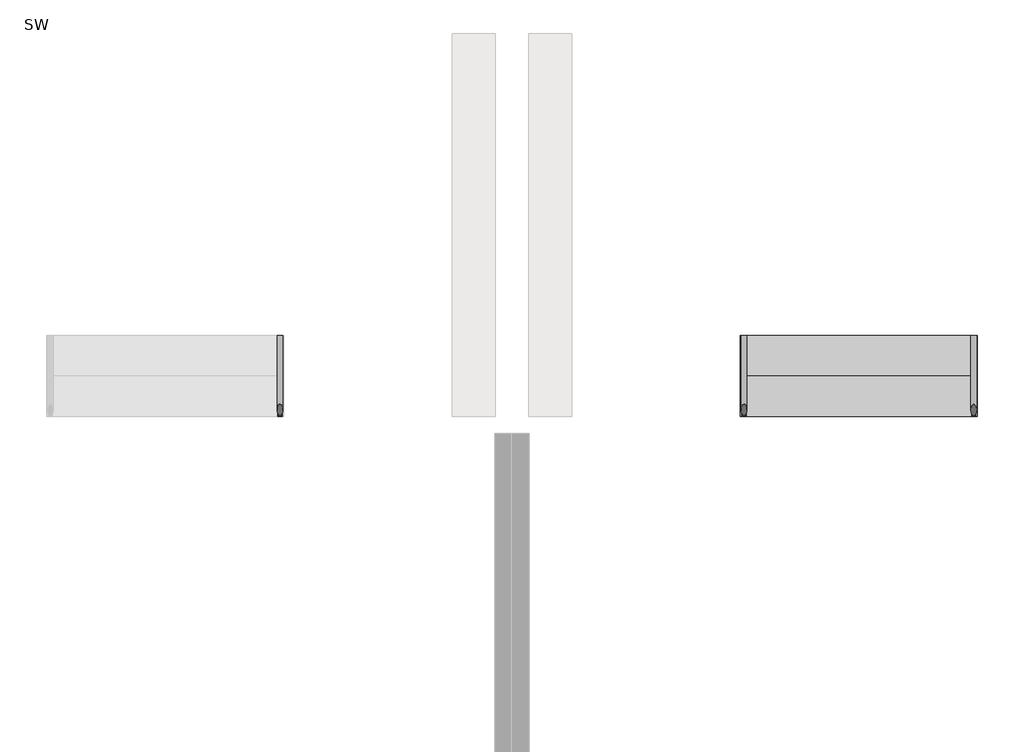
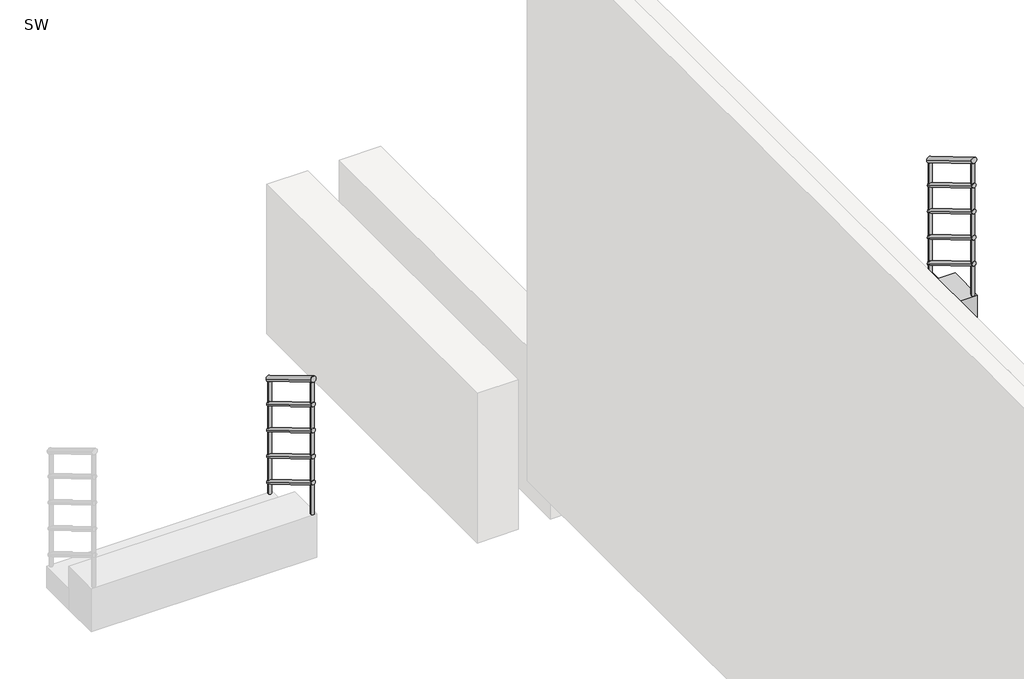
# One storey, part 2 of 2: 3 railings, 1 stair flight.
"""IFC4 building model written with IfcOpenShell, lengths in millimetres."""

import ifcopenshell
import ifcopenshell.guid

model = None  # the IFC model being written
_history = None  # IfcOwnerHistory: only IFC2X3 demands one
_inside = {}  # id of a spatial element -> (the spatial element, [elements in it])
_under = {}  # id of a project, library or spatial element -> (it, [spatial elements below it])
_declared = {}  # id of a project -> (the project, [libraries it declares])
_typed = {}  # id of a type object -> (the type object, [elements of that type])
_made_of = {}  # id of a material, layer set ... -> (it, [elements and type objects made of it])


def new_model(schema):
    """Start an empty IFC model of exactly this schema.

    Asked for "IFC4X3", IfcOpenShell would pick the latest addendum, in which some entities
    have other attributes; the version numbers below select the first issue.
    IFC2X3 requires an IfcOwnerHistory on every rooted entity: one is made here for all.
    """
    global model, _history
    if schema == "IFC4X3":
        model = ifcopenshell.file(schema_version=(4, 3, 0, 0))
    else:
        model = ifcopenshell.file(schema=schema)
    _inside.clear()
    _under.clear()
    _declared.clear()
    _typed.clear()
    _made_of.clear()
    _history = None
    if model.schema == "IFC2X3":
        org = make("IfcOrganization", Name="unknown")
        user = make(
            "IfcPersonAndOrganization",
            ThePerson=make("IfcPerson", FamilyName="unknown"),
            TheOrganization=org,
        )
        app = make(
            "IfcApplication",
            ApplicationDeveloper=org,
            Version="unknown",
            ApplicationFullName="unknown",
            ApplicationIdentifier="unknown",
        )
        _history = make(
            "IfcOwnerHistory",
            OwningUser=user,
            OwningApplication=app,
            ChangeAction="ADDED",
            CreationDate=0,
        )
    return model


def make(cls, **values):
    """One entity of the class cls with the attributes given. An attribute that is None is left unset."""
    return model.create_entity(
        cls, **{name: value for name, value in values.items() if value is not None}
    )


def rooted(cls, **values):
    """An entity with a GlobalId (a new one), such as an element, a storey or a relation."""
    return make(cls, GlobalId=ifcopenshell.guid.new(), OwnerHistory=_history, **values)


def si_unit(unit_type, name, prefix=None):
    """IfcSIUnit, for example si_unit("LENGTHUNIT", "METRE", prefix="MILLI")."""
    return make("IfcSIUnit", UnitType=unit_type, Prefix=prefix, Name=name)


def assignment(units):
    """IfcUnitAssignment: the units of a project."""
    return None if units is None else make("IfcUnitAssignment", Units=units)


def point(xyz):
    """IfcCartesianPoint."""
    return None if xyz is None else make("IfcCartesianPoint", Coordinates=xyz)


def direction(xyz):
    """IfcDirection."""
    return None if xyz is None else make("IfcDirection", DirectionRatios=xyz)


def frame(location, z_axis=None, x_axis=None):
    """IfcAxis2Placement3D, a coordinate frame: its origin and axes. An axis left out is left unset."""
    return make(
        "IfcAxis2Placement3D",
        Location=point(location),
        Axis=direction(z_axis),
        RefDirection=direction(x_axis),
    )


def origin():
    """The frame at (0, 0, 0) with its axes left unset."""
    return frame((0.0, 0.0, 0.0))


def place(relative_to, where):
    """IfcLocalPlacement: puts the frame where relative to a parent placement (None: the world)."""
    return make(
        "IfcLocalPlacement", PlacementRelTo=relative_to, RelativePlacement=where
    )


def context(
    kind, dimensions, precision=None, world=None, true_north=None, identifier=None
):
    """IfcGeometricRepresentationContext, for example the 3D "Model" context."""
    return make(
        "IfcGeometricRepresentationContext",
        ContextIdentifier=identifier,
        ContextType=kind,
        CoordinateSpaceDimension=dimensions,
        Precision=precision,
        WorldCoordinateSystem=world,
        TrueNorth=true_north,
    )


def project(units=None, contexts=None):
    """IfcProject with its units and contexts."""
    return rooted(
        "IfcProject",
        Name="project",
        RepresentationContexts=contexts,
        UnitsInContext=assignment(units),
    )


def spatial(cls, under=None, at=None, **own):
    """A site, building, storey or space (cls), placed at a placement, below another one or the project."""
    s = rooted(cls, ObjectPlacement=at, **own)
    if under is not None:
        _under.setdefault(under.id(), (under, []))[1].append(s)
    return s


def circle_curve(where, radius):
    """IfcCircle in the frame where."""
    return make("IfcCircle", Position=where, Radius=radius)


def ellipse_curve(where, semi_axis1, semi_axis2):
    """IfcEllipse in the frame where."""
    return make(
        "IfcEllipse", Position=where, SemiAxis1=semi_axis1, SemiAxis2=semi_axis2
    )


def faces_of(points, faces, orient=None, outer=None):
    """IfcFace entities. A face is a list of loops; a loop is a list of indices into points, from 0.

    orient and outer hold one flag for each loop. By default every Orientation is true, the
    first loop of a face is its IfcFaceOuterBound and the others are IfcFaceBound.
    """
    made = []
    for i, loops in enumerate(faces):
        bounds = []
        for j, loop in enumerate(loops):
            is_outer = j == 0 if outer is None else outer[i][j]
            bounds.append(
                make(
                    "IfcFaceOuterBound" if is_outer else "IfcFaceBound",
                    Bound=make("IfcPolyLoop", Polygon=[points[k] for k in loop]),
                    Orientation=True if orient is None else orient[i][j],
                )
            )
        made.append(make("IfcFace", Bounds=bounds))
    return made


def faceted_brep(points, faces, orient=None, outer=None, voids=None):
    """IfcFacetedBrep: a solid bounded by flat faces; with voids (closed shells), ...WithVoids."""
    shared = [point(p) for p in points]
    hull = make("IfcClosedShell", CfsFaces=faces_of(shared, faces, orient, outer))
    if voids is None:
        return make("IfcFacetedBrep", Outer=hull)
    return make(
        "IfcFacetedBrepWithVoids",
        Outer=hull,
        Voids=[
            make(cls, CfsFaces=faces_of(shared, fs, o, b)) for cls, fs, o, b in voids
        ],
    )


def shape(context_of_items, identifier, shape_type, items):
    """IfcShapeRepresentation: the items that make up one representation, for example the "Body"."""
    return make(
        "IfcShapeRepresentation",
        ContextOfItems=context_of_items,
        RepresentationIdentifier=identifier,
        RepresentationType=shape_type,
        Items=items,
    )


def made_of(thing, what):
    """Note that an element or type object is made of a material, layer set ...; save() writes the relation."""
    if what is not None:
        _made_of.setdefault(what.id(), (what, []))[1].append(thing)
    return thing


def element(
    cls,
    number,
    at=None,
    inside=None,
    cuts=None,
    type_object=None,
    material=None,
    context=None,
    identifier="Body",
    shape_type=None,
    held_by="IfcProductDefinitionShape",
    body=None,
    shapes=None,
    **own,
):
    """One element of the class cls, such as IfcWall. Its Tag is "e" and its number.

    at: its placement. inside: the storey or other place that contains it. cuts: it is an
    opening in that element (IfcRelVoidsElement). A single representation is given by context,
    identifier, shape_type and body (its items); several are given by shapes. held_by: the class
    of the entity that holds the representations. save() writes the other relations.
    """
    e = rooted(cls, Tag="e%d" % number, ObjectPlacement=at, **own)
    if body is not None:
        shapes = [shape(context, identifier, shape_type, body)]
    if shapes is not None:
        e.Representation = make(held_by, Representations=shapes)
    if inside is not None:
        _inside.setdefault(inside.id(), (inside, []))[1].append(e)
    if cuts is not None:
        rooted(
            "IfcRelVoidsElement", RelatingBuildingElement=cuts, RelatedOpeningElement=e
        )
    if type_object is not None:
        _typed.setdefault(type_object.id(), (type_object, []))[1].append(e)
    return made_of(e, material)


def aggregate(whole, parts):
    """IfcRelAggregates: a whole, such as a stair, and the parts it consists of."""
    return rooted("IfcRelAggregates", RelatingObject=whole, RelatedObjects=parts)


def save(model, path):
    """Write the relations noted so far, then the file.

    IfcRelAggregates (storeys below a building ...), IfcRelContainedInSpatialStructure (elements
    in a storey), IfcRelDefinesByType, IfcRelAssociatesMaterial and IfcRelDeclares: one each for
    every whole, place, type object, material and project.
    """
    for whole, parts in _under.values():
        aggregate(whole, parts)
    for where, things in _inside.values():
        rooted(
            "IfcRelContainedInSpatialStructure",
            RelatedElements=things,
            RelatingStructure=where,
        )
    for kind, things in _typed.values():
        rooted("IfcRelDefinesByType", RelatedObjects=things, RelatingType=kind)
    for what, things in _made_of.values():
        rooted("IfcRelAssociatesMaterial", RelatedObjects=things, RelatingMaterial=what)
    for by, libraries in _declared.values():
        rooted("IfcRelDeclares", RelatingContext=by, RelatedDefinitions=libraries)
    model.write(path)


def plane_surface(at):
    """IfcPlane: the flat surface through the origin of the frame at, square to its z axis."""
    return make("IfcPlane", Position=at)


def cylinder_surface(at, radius):
    """IfcCylindricalSurface: all points at the distance radius from the z axis of the frame at."""
    return make("IfcCylindricalSurface", Position=at, Radius=radius)


def advanced_brep(points, edges, surfaces, faces):
    """IfcAdvancedBrep: a solid bounded by faces that lie on surfaces and meet in shared edges.

    An edge is (start, end): straight between two places in points (the first is 0);
    or (start, end, curve); or (start, end, curve, False) where it runs against its curve.
    A face is (place in surfaces, loops), or (place, loops, False) where it looks against
    its surface's normal. A loop lists edges by number (the first is 1), with a minus sign
    where the edge is run from its end to its start. The first loop is the outer one.
    """
    corners = [point(p) for p in points]
    vertices = [make("IfcVertexPoint", VertexGeometry=c) for c in corners]
    made = []
    for start, end, *more in edges:
        made.append(
            make(
                "IfcEdgeCurve",
                EdgeStart=vertices[start],
                EdgeEnd=vertices[end],
                EdgeGeometry=more[0] if more else make("IfcPolyline", Points=[corners[start], corners[end]]),
                SameSense=more[1] if len(more) > 1 else True,
            )
        )
    hull = []
    for where, loops, *sense in faces:
        bounds = []
        for j, loop in enumerate(loops):
            ring = [make("IfcOrientedEdge", EdgeElement=made[abs(k) - 1], Orientation=k > 0) for k in loop]
            bounds.append(
                make(
                    "IfcFaceOuterBound" if j == 0 else "IfcFaceBound",
                    Bound=make("IfcEdgeLoop", EdgeList=ring),
                    Orientation=True,
                )
            )
        hull.append(make("IfcAdvancedFace", Bounds=bounds, FaceSurface=surfaces[where], SameSense=sense[0] if sense else True))
    return make("IfcAdvancedBrep", Outer=make("IfcClosedShell", CfsFaces=hull))


model = new_model("IFC4")

# Units and contexts
model_context = context("Model", 3, world=origin())
ifc_project = project(units=[si_unit("LENGTHUNIT", "METRE", prefix="MILLI")], contexts=[model_context])

# Site, building, storey
site = spatial("IfcSite", under=ifc_project)
building = spatial("IfcBuilding", under=site)
storey = spatial("IfcBuildingStorey", under=building, Name="SW", Elevation=-450.0)

# Railings
placement = place(None, origin())
element("IfcRailing", 1, ObjectType="900mm 圆管", at=placement, inside=storey, context=model_context, shape_type="AdvancedBrep", body=[
    advanced_brep(
    [(-770.7991115, 14531.4406182, 443.3917154), (-730.7991115, 14531.4406182, 443.3917154), (-770.7991115, 13971.4406182, 776.7250487), (-730.7991115, 13971.4406182, 776.7250487)],
    [
        (0, 1, ellipse_curve(frame((-750.7991115, 14531.4406182, 443.3917154), z_axis=(0.0, 1.0, 0.0), x_axis=(0.0, 0.0, -1.0)), 23.2749513, 20.0)),
        (1, 0, ellipse_curve(frame((-750.7991115, 14531.4406182, 443.3917154), z_axis=(0.0, 1.0, 0.0), x_axis=(0.0, 0.0, -1.0)), 23.2749513, 20.0)),
        (2, 3, ellipse_curve(frame((-750.7991115, 13971.4406182, 776.7250487), z_axis=(0.0, -1.0, 0.0), x_axis=(0.0, 0.0, -1.0)), 23.2749513, 20.0)),
        (3, 2, ellipse_curve(frame((-750.7991115, 13971.4406182, 776.7250487), z_axis=(0.0, -1.0, 0.0), x_axis=(0.0, 0.0, -1.0)), 23.2749513, 20.0)),
        (0, 2),
        (3, 1),
    ],
    [
        plane_surface(frame((-750.7991115, 14531.4406182, 466.6666667), z_axis=(0.0, 1.0, 0.0), x_axis=(0.0, 0.0, -1.0))),
        plane_surface(frame((-750.7991115, 13971.4406182, 800.0), z_axis=(0.0, -1.0, 0.0), x_axis=(0.0, 0.0, -1.0))),
        cylinder_surface(frame((-750.7991115, 14521.210941, 449.480809), z_axis=(0.0, 0.859292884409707, -0.5114838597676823), x_axis=(1.0, 0.0, 0.0)), 20.0),
    ],
    [
        (0, [[1, 2]]),
        (1, [[3, 4]]),
        (2, [[-1, 5, -4, 6]]),
        (2, [[-2, -6, -3, -5]]),
    ],
),
    advanced_brep(
    [(-765.7991115, 14531.4406182, 249.2104532), (-735.7991115, 14531.4406182, 249.2104532), (-765.7991115, 13971.4406182, 582.5437866), (-735.7991115, 13971.4406182, 582.5437866)],
    [
        (0, 1, ellipse_curve(frame((-750.7991115, 14531.4406182, 249.2104532), z_axis=(0.0, 1.0, 0.0), x_axis=(0.0, 0.0, -1.0)), 17.4562134, 15.0)),
        (1, 0, ellipse_curve(frame((-750.7991115, 14531.4406182, 249.2104532), z_axis=(0.0, 1.0, 0.0), x_axis=(0.0, 0.0, -1.0)), 17.4562134, 15.0)),
        (2, 3, ellipse_curve(frame((-750.7991115, 13971.4406182, 582.5437866), z_axis=(0.0, -1.0, 0.0), x_axis=(0.0, 0.0, -1.0)), 17.4562134, 15.0)),
        (3, 2, ellipse_curve(frame((-750.7991115, 13971.4406182, 582.5437866), z_axis=(0.0, -1.0, 0.0), x_axis=(0.0, 0.0, -1.0)), 17.4562134, 15.0)),
        (0, 2),
        (3, 1),
    ],
    [
        plane_surface(frame((-750.7991115, 14531.4406182, 266.6666667), z_axis=(0.0, 1.0, 0.0), x_axis=(0.0, 0.0, -1.0))),
        plane_surface(frame((-750.7991115, 13971.4406182, 600.0), z_axis=(0.0, -1.0, 0.0), x_axis=(0.0, 0.0, -1.0))),
        cylinder_surface(frame((-750.7991115, 14523.7683603, 253.7772734), z_axis=(0.0, 0.859292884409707, -0.5114838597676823), x_axis=(1.0, 0.0, 0.0)), 15.0),
    ],
    [
        (0, [[1, 2]]),
        (1, [[3, 4]]),
        (2, [[-1, 5, -4, 6]]),
        (2, [[-2, -6, -3, -5]]),
    ],
),
    advanced_brep(
    [(-765.7991115, 14531.4406182, 49.2104532), (-735.7991115, 14531.4406182, 49.2104532), (-765.7991115, 13971.4406182, 382.5437866), (-735.7991115, 13971.4406182, 382.5437866)],
    [
        (0, 1, ellipse_curve(frame((-750.7991115, 14531.4406182, 49.2104532), z_axis=(0.0, 1.0, 0.0), x_axis=(0.0, 0.0, -1.0)), 17.4562134, 15.0)),
        (1, 0, ellipse_curve(frame((-750.7991115, 14531.4406182, 49.2104532), z_axis=(0.0, 1.0, 0.0), x_axis=(0.0, 0.0, -1.0)), 17.4562134, 15.0)),
        (2, 3, ellipse_curve(frame((-750.7991115, 13971.4406182, 382.5437866), z_axis=(0.0, -1.0, 0.0), x_axis=(0.0, 0.0, -1.0)), 17.4562134, 15.0)),
        (3, 2, ellipse_curve(frame((-750.7991115, 13971.4406182, 382.5437866), z_axis=(0.0, -1.0, 0.0), x_axis=(0.0, 0.0, -1.0)), 17.4562134, 15.0)),
        (0, 2),
        (3, 1),
    ],
    [
        plane_surface(frame((-750.7991115, 14531.4406182, 66.6666667), z_axis=(0.0, 1.0, 0.0), x_axis=(0.0, 0.0, -1.0))),
        plane_surface(frame((-750.7991115, 13971.4406182, 400.0), z_axis=(0.0, -1.0, 0.0), x_axis=(0.0, 0.0, -1.0))),
        cylinder_surface(frame((-750.7991115, 14523.7683603, 53.7772734), z_axis=(0.0, 0.859292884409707, -0.5114838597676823), x_axis=(1.0, 0.0, 0.0)), 15.0),
    ],
    [
        (0, [[1, 2]]),
        (1, [[3, 4]]),
        (2, [[-1, 5, -4, 6]]),
        (2, [[-2, -6, -3, -5]]),
    ],
),
    advanced_brep(
    [(-765.7991115, 14531.4406182, -150.7895468), (-735.7991115, 14531.4406182, -150.7895468), (-765.7991115, 13971.4406182, 182.5437866), (-735.7991115, 13971.4406182, 182.5437866)],
    [
        (0, 1, ellipse_curve(frame((-750.7991115, 14531.4406182, -150.7895468), z_axis=(0.0, 1.0, 0.0), x_axis=(0.0, 0.0, -1.0)), 17.4562134, 15.0)),
        (1, 0, ellipse_curve(frame((-750.7991115, 14531.4406182, -150.7895468), z_axis=(0.0, 1.0, 0.0), x_axis=(0.0, 0.0, -1.0)), 17.4562134, 15.0)),
        (2, 3, ellipse_curve(frame((-750.7991115, 13971.4406182, 182.5437866), z_axis=(0.0, -1.0, 0.0), x_axis=(0.0, 0.0, -1.0)), 17.4562134, 15.0)),
        (3, 2, ellipse_curve(frame((-750.7991115, 13971.4406182, 182.5437866), z_axis=(0.0, -1.0, 0.0), x_axis=(0.0, 0.0, -1.0)), 17.4562134, 15.0)),
        (0, 2),
        (3, 1),
    ],
    [
        plane_surface(frame((-750.7991115, 14531.4406182, -133.3333333), z_axis=(0.0, 1.0, 0.0), x_axis=(0.0, 0.0, -1.0))),
        plane_surface(frame((-750.7991115, 13971.4406182, 200.0), z_axis=(0.0, -1.0, 0.0), x_axis=(0.0, 0.0, -1.0))),
        cylinder_surface(frame((-750.7991115, 14523.7683603, -146.2227266), z_axis=(0.0, 0.859292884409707, -0.5114838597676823), x_axis=(1.0, 0.0, 0.0)), 15.0),
    ],
    [
        (0, [[1, 2]]),
        (1, [[3, 4]]),
        (2, [[-1, 5, -4, 6]]),
        (2, [[-2, -6, -3, -5]]),
    ],
),
    advanced_brep(
    [(-765.7991115, 14531.4406182, -350.7895468), (-735.7991115, 14531.4406182, -350.7895468), (-765.7991115, 13971.4406182, -17.4562134), (-735.7991115, 13971.4406182, -17.4562134)],
    [
        (0, 1, ellipse_curve(frame((-750.7991115, 14531.4406182, -350.7895468), z_axis=(0.0, 1.0, 0.0), x_axis=(0.0, 0.0, -1.0)), 17.4562134, 15.0)),
        (1, 0, ellipse_curve(frame((-750.7991115, 14531.4406182, -350.7895468), z_axis=(0.0, 1.0, 0.0), x_axis=(0.0, 0.0, -1.0)), 17.4562134, 15.0)),
        (2, 3, ellipse_curve(frame((-750.7991115, 13971.4406182, -17.4562134), z_axis=(0.0, -1.0, 0.0), x_axis=(0.0, 0.0, -1.0)), 17.4562134, 15.0)),
        (3, 2, ellipse_curve(frame((-750.7991115, 13971.4406182, -17.4562134), z_axis=(0.0, -1.0, 0.0), x_axis=(0.0, 0.0, -1.0)), 17.4562134, 15.0)),
        (0, 2),
        (3, 1),
    ],
    [
        plane_surface(frame((-750.7991115, 14531.4406182, -333.3333333), z_axis=(0.0, 1.0, 0.0), x_axis=(0.0, 0.0, -1.0))),
        plane_surface(frame((-750.7991115, 13971.4406182, 0.0), z_axis=(0.0, -1.0, 0.0), x_axis=(0.0, 0.0, -1.0))),
        cylinder_surface(frame((-750.7991115, 14523.7683603, -346.2227266), z_axis=(0.0, 0.859292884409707, -0.5114838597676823), x_axis=(1.0, 0.0, 0.0)), 15.0),
    ],
    [
        (0, [[1, 2]]),
        (1, [[3, 4]]),
        (2, [[-1, 5, -4, 6]]),
        (2, [[-2, -6, -3, -5]]),
    ],
),
    advanced_brep(
    [(-738.2991115, 13983.9406182, 746.0096213), (-763.2991115, 13983.9406182, 746.0096213), (-763.2991115, 13983.9406182, -266.6666667), (-738.2991115, 13983.9406182, -266.6666667)],
    [
        (0, 1, ellipse_curve(frame((-750.7991115, 13983.9406182, 746.0096213), z_axis=(0.0, -0.5114838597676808, -0.8592928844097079), x_axis=(0.0, -0.8592928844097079, 0.5114838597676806)), 14.5468445, 12.5)),
        (1, 2),
        (2, 3, circle_curve(frame((-750.7991115, 13983.9406182, -266.6666667), z_axis=(0.0, 0.0, 1.0), x_axis=(-1.0, 0.0, 0.0)), 12.5)),
        (3, 0),
        (3, 2, circle_curve(frame((-750.7991115, 13983.9406182, -266.6666667), z_axis=(0.0, 0.0, 1.0), x_axis=(-1.0, 0.0, 0.0)), 12.5)),
        (1, 0, ellipse_curve(frame((-750.7991115, 13983.9406182, 746.0096213), z_axis=(0.0, -0.5114838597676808, -0.8592928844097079), x_axis=(0.0, -0.8592928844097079, 0.5114838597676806)), 14.5468445, 12.5)),
    ],
    [
        cylinder_surface(frame((-750.7991115, 13983.9406182, -366.6666667), z_axis=(0.0, 0.0, 1.0), x_axis=(-1.0, 0.0, 0.0)), 12.5),
        plane_surface(frame((-775.7991115, 13958.9406182, 760.8905737), z_axis=(0.0, 0.5114838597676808, 0.8592928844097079), x_axis=(1.0, 0.0, 0.0))),
        plane_surface(frame((-775.7991115, 14008.9406182, -266.6666667), z_axis=(0.0, 0.0, -1.0), x_axis=(1.0, 0.0, 0.0))),
    ],
    [
        (0, [[1, 2, 3, 4]]),
        (0, [[5, -2, 6, -4]]),
        (1, [[-6, -1]]),
        (2, [[-5, -3]]),
    ],
),
    advanced_brep(
    [(-738.2991115, 14518.9406182, 427.5572403), (-763.2991115, 14518.9406182, 427.5572403), (-763.2991115, 14518.9406182, -433.3333333), (-738.2991115, 14518.9406182, -433.3333333)],
    [
        (0, 1, ellipse_curve(frame((-750.7991115, 14518.9406182, 427.5572403), z_axis=(0.0, -0.5114838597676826, -0.8592928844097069), x_axis=(0.0, -0.8592928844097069, 0.5114838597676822)), 14.5468445, 12.5)),
        (1, 2),
        (2, 3, circle_curve(frame((-750.7991115, 14518.9406182, -433.3333333), z_axis=(0.0, 0.0, 1.0), x_axis=(-1.0, 0.0, 0.0)), 12.5)),
        (3, 0),
        (3, 2, circle_curve(frame((-750.7991115, 14518.9406182, -433.3333333), z_axis=(0.0, 0.0, 1.0), x_axis=(-1.0, 0.0, 0.0)), 12.5)),
        (1, 0, ellipse_curve(frame((-750.7991115, 14518.9406182, 427.5572403), z_axis=(0.0, -0.5114838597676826, -0.8592928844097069), x_axis=(0.0, -0.8592928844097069, 0.5114838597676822)), 14.5468445, 12.5)),
    ],
    [
        cylinder_surface(frame((-750.7991115, 14518.9406182, -533.3333333), z_axis=(0.0, 0.0, 1.0), x_axis=(-1.0, 0.0, 0.0)), 12.5),
        plane_surface(frame((-775.7991115, 14493.9406182, 442.4381927), z_axis=(0.0, 0.5114838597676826, 0.8592928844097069), x_axis=(1.0, 0.0, 0.0))),
        plane_surface(frame((-775.7991115, 14543.9406182, -433.3333333), z_axis=(0.0, 0.0, -1.0), x_axis=(1.0, 0.0, 0.0))),
    ],
    [
        (0, [[1, 2, 3, 4]]),
        (0, [[5, -2, 6, -4]]),
        (1, [[-6, -1]]),
        (2, [[-5, -3]]),
    ],
),
])
element("IfcRailing", 2, ObjectType="900mm 圆管", at=placement, inside=storey, context=model_context, shape_type="AdvancedBrep", body=[
    advanced_brep(
    [(4029.2008885, 14531.4406182, 443.3917154), (4069.2008885, 14531.4406182, 443.3917154), (4029.2008885, 13971.4406182, 776.7250487), (4069.2008885, 13971.4406182, 776.7250487)],
    [
        (0, 1, ellipse_curve(frame((4049.2008885, 14531.4406182, 443.3917154), z_axis=(0.0, 1.0, 0.0), x_axis=(0.0, 0.0, -1.0)), 23.2749513, 20.0)),
        (1, 0, ellipse_curve(frame((4049.2008885, 14531.4406182, 443.3917154), z_axis=(0.0, 1.0, 0.0), x_axis=(0.0, 0.0, -1.0)), 23.2749513, 20.0)),
        (2, 3, ellipse_curve(frame((4049.2008885, 13971.4406182, 776.7250487), z_axis=(0.0, -1.0, 0.0), x_axis=(0.0, 0.0, -1.0)), 23.2749513, 20.0)),
        (3, 2, ellipse_curve(frame((4049.2008885, 13971.4406182, 776.7250487), z_axis=(0.0, -1.0, 0.0), x_axis=(0.0, 0.0, -1.0)), 23.2749513, 20.0)),
        (0, 2),
        (3, 1),
    ],
    [
        plane_surface(frame((4049.2008885, 14531.4406182, 466.6666667), z_axis=(0.0, 1.0, 0.0), x_axis=(0.0, 0.0, -1.0))),
        plane_surface(frame((4049.2008885, 13971.4406182, 800.0), z_axis=(0.0, -1.0, 0.0), x_axis=(0.0, 0.0, -1.0))),
        cylinder_surface(frame((4049.2008885, 14521.210941, 449.480809), z_axis=(0.0, 0.859292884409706, -0.5114838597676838), x_axis=(1.0, 0.0, 0.0)), 20.0),
    ],
    [
        (0, [[1, 2]]),
        (1, [[3, 4]]),
        (2, [[-1, 5, -4, 6]]),
        (2, [[-2, -6, -3, -5]]),
    ],
),
    advanced_brep(
    [(4034.2008885, 14531.4406182, 249.2104532), (4064.2008885, 14531.4406182, 249.2104532), (4034.2008885, 13971.4406182, 582.5437866), (4064.2008885, 13971.4406182, 582.5437866)],
    [
        (0, 1, ellipse_curve(frame((4049.2008885, 14531.4406182, 249.2104532), z_axis=(0.0, 1.0, 0.0), x_axis=(0.0, 0.0, -1.0)), 17.4562134, 15.0)),
        (1, 0, ellipse_curve(frame((4049.2008885, 14531.4406182, 249.2104532), z_axis=(0.0, 1.0, 0.0), x_axis=(0.0, 0.0, -1.0)), 17.4562134, 15.0)),
        (2, 3, ellipse_curve(frame((4049.2008885, 13971.4406182, 582.5437866), z_axis=(0.0, -1.0, 0.0), x_axis=(0.0, 0.0, -1.0)), 17.4562134, 15.0)),
        (3, 2, ellipse_curve(frame((4049.2008885, 13971.4406182, 582.5437866), z_axis=(0.0, -1.0, 0.0), x_axis=(0.0, 0.0, -1.0)), 17.4562134, 15.0)),
        (1, 3),
        (2, 0),
    ],
    [
        plane_surface(frame((4049.2008885, 14531.4406182, 266.6666667), z_axis=(0.0, 1.0, 0.0), x_axis=(0.0, 0.0, -1.0))),
        plane_surface(frame((4049.2008885, 13971.4406182, 600.0), z_axis=(0.0, -1.0, 0.0), x_axis=(0.0, 0.0, -1.0))),
        cylinder_surface(frame((4049.2008885, 14523.7683603, 253.7772734), z_axis=(0.0, 0.859292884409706, -0.5114838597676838), x_axis=(1.0, 0.0, 0.0)), 15.0),
    ],
    [
        (0, [[1, 2]]),
        (1, [[3, 4]]),
        (2, [[-2, 5, -3, 6]]),
        (2, [[-1, -6, -4, -5]]),
    ],
),
    advanced_brep(
    [(4034.2008885, 14531.4406182, 49.2104532), (4064.2008885, 14531.4406182, 49.2104532), (4034.2008885, 13971.4406182, 382.5437866), (4064.2008885, 13971.4406182, 382.5437866)],
    [
        (0, 1, ellipse_curve(frame((4049.2008885, 14531.4406182, 49.2104532), z_axis=(0.0, 1.0, 0.0), x_axis=(0.0, 0.0, -1.0)), 17.4562134, 15.0)),
        (1, 0, ellipse_curve(frame((4049.2008885, 14531.4406182, 49.2104532), z_axis=(0.0, 1.0, 0.0), x_axis=(0.0, 0.0, -1.0)), 17.4562134, 15.0)),
        (2, 3, ellipse_curve(frame((4049.2008885, 13971.4406182, 382.5437866), z_axis=(0.0, -1.0, 0.0), x_axis=(0.0, 0.0, -1.0)), 17.4562134, 15.0)),
        (3, 2, ellipse_curve(frame((4049.2008885, 13971.4406182, 382.5437866), z_axis=(0.0, -1.0, 0.0), x_axis=(0.0, 0.0, -1.0)), 17.4562134, 15.0)),
        (1, 3),
        (2, 0),
    ],
    [
        plane_surface(frame((4049.2008885, 14531.4406182, 66.6666667), z_axis=(0.0, 1.0, 0.0), x_axis=(0.0, 0.0, -1.0))),
        plane_surface(frame((4049.2008885, 13971.4406182, 400.0), z_axis=(0.0, -1.0, 0.0), x_axis=(0.0, 0.0, -1.0))),
        cylinder_surface(frame((4049.2008885, 14523.7683603, 53.7772734), z_axis=(0.0, 0.859292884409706, -0.5114838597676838), x_axis=(1.0, 0.0, 0.0)), 15.0),
    ],
    [
        (0, [[1, 2]]),
        (1, [[3, 4]]),
        (2, [[-2, 5, -3, 6]]),
        (2, [[-1, -6, -4, -5]]),
    ],
),
    advanced_brep(
    [(4034.2008885, 14531.4406182, -150.7895468), (4064.2008885, 14531.4406182, -150.7895468), (4034.2008885, 13971.4406182, 182.5437866), (4064.2008885, 13971.4406182, 182.5437866)],
    [
        (0, 1, ellipse_curve(frame((4049.2008885, 14531.4406182, -150.7895468), z_axis=(0.0, 1.0, 0.0), x_axis=(0.0, 0.0, -1.0)), 17.4562134, 15.0)),
        (1, 0, ellipse_curve(frame((4049.2008885, 14531.4406182, -150.7895468), z_axis=(0.0, 1.0, 0.0), x_axis=(0.0, 0.0, -1.0)), 17.4562134, 15.0)),
        (2, 3, ellipse_curve(frame((4049.2008885, 13971.4406182, 182.5437866), z_axis=(0.0, -1.0, 0.0), x_axis=(0.0, 0.0, -1.0)), 17.4562134, 15.0)),
        (3, 2, ellipse_curve(frame((4049.2008885, 13971.4406182, 182.5437866), z_axis=(0.0, -1.0, 0.0), x_axis=(0.0, 0.0, -1.0)), 17.4562134, 15.0)),
        (1, 3),
        (2, 0),
    ],
    [
        plane_surface(frame((4049.2008885, 14531.4406182, -133.3333333), z_axis=(0.0, 1.0, 0.0), x_axis=(0.0, 0.0, -1.0))),
        plane_surface(frame((4049.2008885, 13971.4406182, 200.0), z_axis=(0.0, -1.0, 0.0), x_axis=(0.0, 0.0, -1.0))),
        cylinder_surface(frame((4049.2008885, 14523.7683603, -146.2227266), z_axis=(0.0, 0.859292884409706, -0.5114838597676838), x_axis=(1.0, 0.0, 0.0)), 15.0),
    ],
    [
        (0, [[1, 2]]),
        (1, [[3, 4]]),
        (2, [[-2, 5, -3, 6]]),
        (2, [[-1, -6, -4, -5]]),
    ],
),
    advanced_brep(
    [(4034.2008885, 14531.4406182, -350.7895468), (4064.2008885, 14531.4406182, -350.7895468), (4034.2008885, 13971.4406182, -17.4562134), (4064.2008885, 13971.4406182, -17.4562134)],
    [
        (0, 1, ellipse_curve(frame((4049.2008885, 14531.4406182, -350.7895468), z_axis=(0.0, 1.0, 0.0), x_axis=(0.0, 0.0, -1.0)), 17.4562134, 15.0)),
        (1, 0, ellipse_curve(frame((4049.2008885, 14531.4406182, -350.7895468), z_axis=(0.0, 1.0, 0.0), x_axis=(0.0, 0.0, -1.0)), 17.4562134, 15.0)),
        (2, 3, ellipse_curve(frame((4049.2008885, 13971.4406182, -17.4562134), z_axis=(0.0, -1.0, 0.0), x_axis=(0.0, 0.0, -1.0)), 17.4562134, 15.0)),
        (3, 2, ellipse_curve(frame((4049.2008885, 13971.4406182, -17.4562134), z_axis=(0.0, -1.0, 0.0), x_axis=(0.0, 0.0, -1.0)), 17.4562134, 15.0)),
        (1, 3),
        (2, 0),
    ],
    [
        plane_surface(frame((4049.2008885, 14531.4406182, -333.3333333), z_axis=(0.0, 1.0, 0.0), x_axis=(0.0, 0.0, -1.0))),
        plane_surface(frame((4049.2008885, 13971.4406182, 0.0), z_axis=(0.0, -1.0, 0.0), x_axis=(0.0, 0.0, -1.0))),
        cylinder_surface(frame((4049.2008885, 14523.7683603, -346.2227266), z_axis=(0.0, 0.859292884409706, -0.5114838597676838), x_axis=(1.0, 0.0, 0.0)), 15.0),
    ],
    [
        (0, [[1, 2]]),
        (1, [[3, 4]]),
        (2, [[-2, 5, -3, 6]]),
        (2, [[-1, -6, -4, -5]]),
    ],
),
    advanced_brep(
    [(4061.7008885, 13983.9406182, 746.0096213), (4036.7008885, 13983.9406182, 746.0096213), (4036.7008885, 13983.9406182, -266.6666667), (4061.7008885, 13983.9406182, -266.6666667)],
    [
        (0, 1, ellipse_curve(frame((4049.2008885, 13983.9406182, 746.0096213), z_axis=(0.0, -0.5114838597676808, -0.8592928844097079), x_axis=(0.0, -0.8592928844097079, 0.5114838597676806)), 14.5468445, 12.5)),
        (1, 2),
        (2, 3, circle_curve(frame((4049.2008885, 13983.9406182, -266.6666667), z_axis=(0.0, 0.0, 1.0), x_axis=(-1.0, 0.0, 0.0)), 12.5)),
        (3, 0),
        (3, 2, circle_curve(frame((4049.2008885, 13983.9406182, -266.6666667), z_axis=(0.0, 0.0, 1.0), x_axis=(-1.0, 0.0, 0.0)), 12.5)),
        (1, 0, ellipse_curve(frame((4049.2008885, 13983.9406182, 746.0096213), z_axis=(0.0, -0.5114838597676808, -0.8592928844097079), x_axis=(0.0, -0.8592928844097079, 0.5114838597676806)), 14.5468445, 12.5)),
    ],
    [
        cylinder_surface(frame((4049.2008885, 13983.9406182, -366.6666667), z_axis=(0.0, 0.0, 1.0), x_axis=(-1.0, 0.0, 0.0)), 12.5),
        plane_surface(frame((4024.2008885, 13958.9406182, 760.8905737), z_axis=(0.0, 0.5114838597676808, 0.8592928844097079), x_axis=(1.0, 0.0, 0.0))),
        plane_surface(frame((4024.2008885, 14008.9406182, -266.6666667), z_axis=(0.0, 0.0, -1.0), x_axis=(1.0, 0.0, 0.0))),
    ],
    [
        (0, [[1, 2, 3, 4]]),
        (0, [[5, -2, 6, -4]]),
        (1, [[-6, -1]]),
        (2, [[-5, -3]]),
    ],
),
    advanced_brep(
    [(4061.7008885, 14518.9406182, 427.5572403), (4036.7008885, 14518.9406182, 427.5572403), (4036.7008885, 14518.9406182, -433.3333333), (4061.7008885, 14518.9406182, -433.3333333)],
    [
        (0, 1, ellipse_curve(frame((4049.2008885, 14518.9406182, 427.5572403), z_axis=(0.0, -0.5114838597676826, -0.8592928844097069), x_axis=(0.0, -0.8592928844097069, 0.5114838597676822)), 14.5468445, 12.5)),
        (1, 2),
        (2, 3, circle_curve(frame((4049.2008885, 14518.9406182, -433.3333333), z_axis=(0.0, 0.0, 1.0), x_axis=(-1.0, 0.0, 0.0)), 12.5)),
        (3, 0),
        (3, 2, circle_curve(frame((4049.2008885, 14518.9406182, -433.3333333), z_axis=(0.0, 0.0, 1.0), x_axis=(-1.0, 0.0, 0.0)), 12.5)),
        (1, 0, ellipse_curve(frame((4049.2008885, 14518.9406182, 427.5572403), z_axis=(0.0, -0.5114838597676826, -0.8592928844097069), x_axis=(0.0, -0.8592928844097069, 0.5114838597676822)), 14.5468445, 12.5)),
    ],
    [
        cylinder_surface(frame((4049.2008885, 14518.9406182, -533.3333333), z_axis=(0.0, 0.0, 1.0), x_axis=(-1.0, 0.0, 0.0)), 12.5),
        plane_surface(frame((4024.2008885, 14493.9406182, 442.4381927), z_axis=(0.0, 0.5114838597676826, 0.8592928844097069), x_axis=(1.0, 0.0, 0.0))),
        plane_surface(frame((4024.2008885, 14543.9406182, -433.3333333), z_axis=(0.0, 0.0, -1.0), x_axis=(1.0, 0.0, 0.0))),
    ],
    [
        (0, [[1, 2, 3, 4]]),
        (0, [[5, -2, 6, -4]]),
        (1, [[-6, -1]]),
        (2, [[-5, -3]]),
    ],
),
])
element("IfcRailing", 3, ObjectType="900mm 圆管", at=placement, inside=storey, context=model_context, shape_type="AdvancedBrep", body=[
    advanced_brep(
    [(2440.0008885, 14531.4406182, 443.3917154), (2480.0008885, 14531.4406182, 443.3917154), (2440.0008885, 13971.4406182, 776.7250487), (2480.0008885, 13971.4406182, 776.7250487)],
    [
        (0, 1, ellipse_curve(frame((2460.0008885, 14531.4406182, 443.3917154), z_axis=(0.0, 1.0, 0.0), x_axis=(0.0, 0.0, -1.0)), 23.2749513, 20.0)),
        (1, 0, ellipse_curve(frame((2460.0008885, 14531.4406182, 443.3917154), z_axis=(0.0, 1.0, 0.0), x_axis=(0.0, 0.0, -1.0)), 23.2749513, 20.0)),
        (2, 3, ellipse_curve(frame((2460.0008885, 13971.4406182, 776.7250487), z_axis=(0.0, -1.0, 0.0), x_axis=(0.0, 0.0, -1.0)), 23.2749513, 20.0)),
        (3, 2, ellipse_curve(frame((2460.0008885, 13971.4406182, 776.7250487), z_axis=(0.0, -1.0, 0.0), x_axis=(0.0, 0.0, -1.0)), 23.2749513, 20.0)),
        (0, 2),
        (3, 1),
    ],
    [
        plane_surface(frame((2460.0008885, 14531.4406182, 466.6666667), z_axis=(0.0, 1.0, 0.0), x_axis=(0.0, 0.0, -1.0))),
        plane_surface(frame((2460.0008885, 13971.4406182, 800.0), z_axis=(0.0, -1.0, 0.0), x_axis=(0.0, 0.0, -1.0))),
        cylinder_surface(frame((2460.0008885, 14521.210941, 449.480809), z_axis=(0.0, 0.8592928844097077, -0.5114838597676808), x_axis=(1.0, 0.0, 0.0)), 20.0),
    ],
    [
        (0, [[1, 2]]),
        (1, [[3, 4]]),
        (2, [[-1, 5, -4, 6]]),
        (2, [[-2, -6, -3, -5]]),
    ],
),
    advanced_brep(
    [(2475.0008885, 14531.4406182, 249.2104532), (2445.0008885, 14531.4406182, 249.2104532), (2475.0008885, 13971.4406182, 582.5437866), (2445.0008885, 13971.4406182, 582.5437866)],
    [
        (0, 1, ellipse_curve(frame((2460.0008885, 14531.4406182, 249.2104532), z_axis=(0.0, 1.0, 0.0), x_axis=(0.0, 0.0, -1.0)), 17.4562134, 15.0)),
        (1, 0, ellipse_curve(frame((2460.0008885, 14531.4406182, 249.2104532), z_axis=(0.0, 1.0, 0.0), x_axis=(0.0, 0.0, -1.0)), 17.4562134, 15.0)),
        (2, 3, ellipse_curve(frame((2460.0008885, 13971.4406182, 582.5437866), z_axis=(0.0, -1.0, 0.0), x_axis=(0.0, 0.0, -1.0)), 17.4562134, 15.0)),
        (3, 2, ellipse_curve(frame((2460.0008885, 13971.4406182, 582.5437866), z_axis=(0.0, -1.0, 0.0), x_axis=(0.0, 0.0, -1.0)), 17.4562134, 15.0)),
        (1, 3),
        (2, 0),
    ],
    [
        plane_surface(frame((2460.0008885, 14531.4406182, 266.6666667), z_axis=(0.0, 1.0, 0.0), x_axis=(0.0, 0.0, -1.0))),
        plane_surface(frame((2460.0008885, 13971.4406182, 600.0), z_axis=(0.0, -1.0, 0.0), x_axis=(0.0, 0.0, -1.0))),
        cylinder_surface(frame((2460.0008885, 14523.7683603, 253.7772734), z_axis=(0.0, 0.8592928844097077, -0.5114838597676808), x_axis=(-1.0, 0.0, 0.0)), 15.0),
    ],
    [
        (0, [[1, 2]]),
        (1, [[3, 4]]),
        (2, [[-2, 5, -3, 6]]),
        (2, [[-1, -6, -4, -5]]),
    ],
),
    advanced_brep(
    [(2475.0008885, 14531.4406182, 49.2104532), (2445.0008885, 14531.4406182, 49.2104532), (2475.0008885, 13971.4406182, 382.5437866), (2445.0008885, 13971.4406182, 382.5437866)],
    [
        (0, 1, ellipse_curve(frame((2460.0008885, 14531.4406182, 49.2104532), z_axis=(0.0, 1.0, 0.0), x_axis=(0.0, 0.0, -1.0)), 17.4562134, 15.0)),
        (1, 0, ellipse_curve(frame((2460.0008885, 14531.4406182, 49.2104532), z_axis=(0.0, 1.0, 0.0), x_axis=(0.0, 0.0, -1.0)), 17.4562134, 15.0)),
        (2, 3, ellipse_curve(frame((2460.0008885, 13971.4406182, 382.5437866), z_axis=(0.0, -1.0, 0.0), x_axis=(0.0, 0.0, -1.0)), 17.4562134, 15.0)),
        (3, 2, ellipse_curve(frame((2460.0008885, 13971.4406182, 382.5437866), z_axis=(0.0, -1.0, 0.0), x_axis=(0.0, 0.0, -1.0)), 17.4562134, 15.0)),
        (1, 3),
        (2, 0),
    ],
    [
        plane_surface(frame((2460.0008885, 14531.4406182, 66.6666667), z_axis=(0.0, 1.0, 0.0), x_axis=(0.0, 0.0, -1.0))),
        plane_surface(frame((2460.0008885, 13971.4406182, 400.0), z_axis=(0.0, -1.0, 0.0), x_axis=(0.0, 0.0, -1.0))),
        cylinder_surface(frame((2460.0008885, 14523.7683603, 53.7772734), z_axis=(0.0, 0.8592928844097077, -0.5114838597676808), x_axis=(-1.0, 0.0, 0.0)), 15.0),
    ],
    [
        (0, [[1, 2]]),
        (1, [[3, 4]]),
        (2, [[-2, 5, -3, 6]]),
        (2, [[-1, -6, -4, -5]]),
    ],
),
    advanced_brep(
    [(2475.0008885, 14531.4406182, -150.7895468), (2445.0008885, 14531.4406182, -150.7895468), (2475.0008885, 13971.4406182, 182.5437866), (2445.0008885, 13971.4406182, 182.5437866)],
    [
        (0, 1, ellipse_curve(frame((2460.0008885, 14531.4406182, -150.7895468), z_axis=(0.0, 1.0, 0.0), x_axis=(0.0, 0.0, -1.0)), 17.4562134, 15.0)),
        (1, 0, ellipse_curve(frame((2460.0008885, 14531.4406182, -150.7895468), z_axis=(0.0, 1.0, 0.0), x_axis=(0.0, 0.0, -1.0)), 17.4562134, 15.0)),
        (2, 3, ellipse_curve(frame((2460.0008885, 13971.4406182, 182.5437866), z_axis=(0.0, -1.0, 0.0), x_axis=(0.0, 0.0, -1.0)), 17.4562134, 15.0)),
        (3, 2, ellipse_curve(frame((2460.0008885, 13971.4406182, 182.5437866), z_axis=(0.0, -1.0, 0.0), x_axis=(0.0, 0.0, -1.0)), 17.4562134, 15.0)),
        (1, 3),
        (2, 0),
    ],
    [
        plane_surface(frame((2460.0008885, 14531.4406182, -133.3333333), z_axis=(0.0, 1.0, 0.0), x_axis=(0.0, 0.0, -1.0))),
        plane_surface(frame((2460.0008885, 13971.4406182, 200.0), z_axis=(0.0, -1.0, 0.0), x_axis=(0.0, 0.0, -1.0))),
        cylinder_surface(frame((2460.0008885, 14523.7683603, -146.2227266), z_axis=(0.0, 0.8592928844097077, -0.5114838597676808), x_axis=(-1.0, 0.0, 0.0)), 15.0),
    ],
    [
        (0, [[1, 2]]),
        (1, [[3, 4]]),
        (2, [[-2, 5, -3, 6]]),
        (2, [[-1, -6, -4, -5]]),
    ],
),
    advanced_brep(
    [(2475.0008885, 14531.4406182, -350.7895468), (2445.0008885, 14531.4406182, -350.7895468), (2475.0008885, 13971.4406182, -17.4562134), (2445.0008885, 13971.4406182, -17.4562134)],
    [
        (0, 1, ellipse_curve(frame((2460.0008885, 14531.4406182, -350.7895468), z_axis=(0.0, 1.0, 0.0), x_axis=(0.0, 0.0, -1.0)), 17.4562134, 15.0)),
        (1, 0, ellipse_curve(frame((2460.0008885, 14531.4406182, -350.7895468), z_axis=(0.0, 1.0, 0.0), x_axis=(0.0, 0.0, -1.0)), 17.4562134, 15.0)),
        (2, 3, ellipse_curve(frame((2460.0008885, 13971.4406182, -17.4562134), z_axis=(0.0, -1.0, 0.0), x_axis=(0.0, 0.0, -1.0)), 17.4562134, 15.0)),
        (3, 2, ellipse_curve(frame((2460.0008885, 13971.4406182, -17.4562134), z_axis=(0.0, -1.0, 0.0), x_axis=(0.0, 0.0, -1.0)), 17.4562134, 15.0)),
        (1, 3),
        (2, 0),
    ],
    [
        plane_surface(frame((2460.0008885, 14531.4406182, -333.3333333), z_axis=(0.0, 1.0, 0.0), x_axis=(0.0, 0.0, -1.0))),
        plane_surface(frame((2460.0008885, 13971.4406182, 0.0), z_axis=(0.0, -1.0, 0.0), x_axis=(0.0, 0.0, -1.0))),
        cylinder_surface(frame((2460.0008885, 14523.7683603, -346.2227266), z_axis=(0.0, 0.8592928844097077, -0.5114838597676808), x_axis=(-1.0, 0.0, 0.0)), 15.0),
    ],
    [
        (0, [[1, 2]]),
        (1, [[3, 4]]),
        (2, [[-2, 5, -3, 6]]),
        (2, [[-1, -6, -4, -5]]),
    ],
),
    advanced_brep(
    [(2447.5008885, 13983.9406182, 746.0096213), (2447.5008885, 13983.9406182, -266.6666667), (2472.5008885, 13983.9406182, -266.6666667), (2472.5008885, 13983.9406182, 746.0096213)],
    [
        (0, 1),
        (1, 2, circle_curve(frame((2460.0008885, 13983.9406182, -266.6666667), z_axis=(0.0, 0.0, 1.0), x_axis=(1.0, 0.0, 0.0)), 12.5)),
        (2, 3),
        (3, 0, ellipse_curve(frame((2460.0008885, 13983.9406182, 746.0096213), z_axis=(0.0, -0.5114838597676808, -0.8592928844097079), x_axis=(0.0, -0.8592928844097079, 0.5114838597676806)), 14.5468445, 12.5)),
        (0, 3, ellipse_curve(frame((2460.0008885, 13983.9406182, 746.0096213), z_axis=(0.0, -0.5114838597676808, -0.8592928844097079), x_axis=(0.0, -0.8592928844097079, 0.5114838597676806)), 14.5468445, 12.5)),
        (2, 1, circle_curve(frame((2460.0008885, 13983.9406182, -266.6666667), z_axis=(0.0, 0.0, 1.0), x_axis=(1.0, 0.0, 0.0)), 12.5)),
    ],
    [
        cylinder_surface(frame((2460.0008885, 13983.9406182, -366.6666667), z_axis=(0.0, 0.0, 1.0), x_axis=(1.0, 0.0, 0.0)), 12.5),
        plane_surface(frame((2485.0008885, 13958.9406182, 760.8905737), z_axis=(0.0, 0.5114838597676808, 0.8592928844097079), x_axis=(-1.0, 0.0, 0.0))),
        plane_surface(frame((2485.0008885, 14008.9406182, -266.6666667), z_axis=(0.0, 0.0, -1.0), x_axis=(-1.0, 0.0, 0.0))),
    ],
    [
        (0, [[1, 2, 3, 4]]),
        (0, [[-1, 5, -3, 6]]),
        (1, [[-4, -5]]),
        (2, [[-2, -6]]),
    ],
),
    advanced_brep(
    [(2447.5008885, 14518.9406182, 427.5572403), (2447.5008885, 14518.9406182, -433.3333333), (2472.5008885, 14518.9406182, -433.3333333), (2472.5008885, 14518.9406182, 427.5572403)],
    [
        (0, 1),
        (1, 2, circle_curve(frame((2460.0008885, 14518.9406182, -433.3333333), z_axis=(0.0, 0.0, 1.0), x_axis=(1.0, 0.0, 0.0)), 12.5)),
        (2, 3),
        (3, 0, ellipse_curve(frame((2460.0008885, 14518.9406182, 427.5572403), z_axis=(0.0, -0.5114838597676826, -0.8592928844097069), x_axis=(0.0, -0.8592928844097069, 0.5114838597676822)), 14.5468445, 12.5)),
        (0, 3, ellipse_curve(frame((2460.0008885, 14518.9406182, 427.5572403), z_axis=(0.0, -0.5114838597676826, -0.8592928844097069), x_axis=(0.0, -0.8592928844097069, 0.5114838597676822)), 14.5468445, 12.5)),
        (2, 1, circle_curve(frame((2460.0008885, 14518.9406182, -433.3333333), z_axis=(0.0, 0.0, 1.0), x_axis=(1.0, 0.0, 0.0)), 12.5)),
    ],
    [
        cylinder_surface(frame((2460.0008885, 14518.9406182, -533.3333333), z_axis=(0.0, 0.0, 1.0), x_axis=(1.0, 0.0, 0.0)), 12.5),
        plane_surface(frame((2485.0008885, 14493.9406182, 442.4381927), z_axis=(0.0, 0.5114838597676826, 0.8592928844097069), x_axis=(-1.0, 0.0, 0.0))),
        plane_surface(frame((2485.0008885, 14543.9406182, -433.3333333), z_axis=(0.0, 0.0, -1.0), x_axis=(-1.0, 0.0, 0.0))),
    ],
    [
        (0, [[1, 2, 3, 4]]),
        (0, [[-1, 5, -3, 6]]),
        (1, [[-4, -5]]),
        (2, [[-2, -6]]),
    ],
),
])

# Stair flight
element("IfcStairFlight", 4, ObjectType="500mm 结构深度 2", at=placement, inside=storey, context=model_context, shape_type="Brep", body=[
    faceted_brep([(4074.6008885, 14251.4406182, -433.3333333), (4074.6008885, 14531.4406182, -433.3333333), (2434.6008885, 14531.4406182, -433.3333333), (2434.6008885, 14251.4406182, -433.3333333), (2434.6008885, 14531.4406182, -600.0), (2434.6008885, 14251.4406182, -600.0), (4074.6008885, 14531.4406182, -600.0), (4074.6008885, 14251.4406182, -600.0), (4074.6008885, 13971.4406182, -266.6666667), (4074.6008885, 14251.4406182, -266.6666667), (2434.6008885, 14251.4406182, -266.6666667), (2434.6008885, 13971.4406182, -266.6666667), (2434.6008885, 13971.4406182, -600.0), (4074.6008885, 13971.4406182, -600.0)], [[[0, 1, 2, 3]], [[3, 2, 4, 5]], [[2, 1, 6, 4]], [[1, 0, 7, 6]], [[8, 9, 10, 11]], [[3, 5, 12, 11, 10]], [[0, 3, 10, 9]], [[7, 0, 9, 8, 13]], [[8, 11, 12, 13]], [[6, 7, 13, 12, 5, 4]]]),
])

save(model, "model.ifc")
